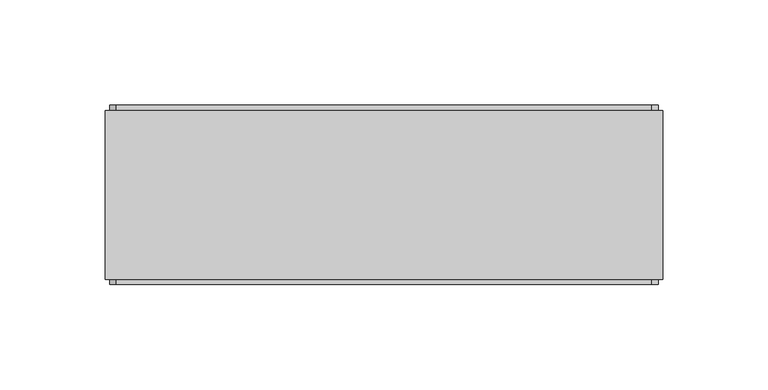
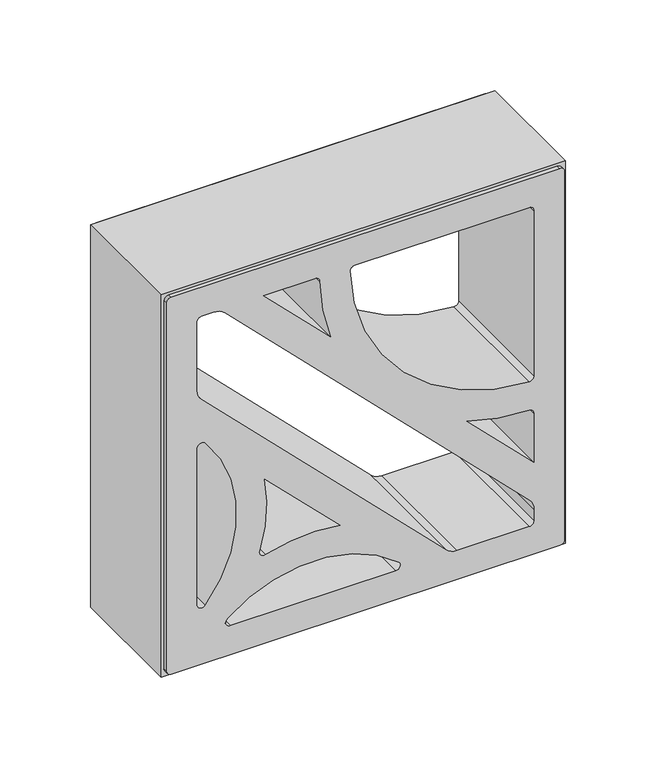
"""IFC4 building model written with IfcOpenShell, lengths in millimetres: proxy geometry, PORTOBELLO - STUDIO CRAFT 5 26X26 (COBOGO) : STUDIO CRAFT 5."""

from ifc_helpers import new_model, si_unit, point, frame, frame_2d, origin, place, context, project, spatial, polyline, circle_curve, trimmed, segment, composite_curve, outline, extrude, source, transform, mapped, element, save


def generic_models_fdc848f5(model_context):
    return source(origin(), model_context, "Body", "SweptSolid", [
        extrude(outline(composite_curve([segment(polyline([(259.0, -130.0), (5.0, -130.0)]), True, "CONTINUOUS"), segment(trimmed(circle_curve(frame_2d((5.0, -127.0)), 3.0), [point((5.0, -130.0))], [point((2.0, -127.0))], False, "CARTESIAN"), True, "CONTINUOUS"), segment(polyline([(2.0, -127.0), (2.0, 127.0)]), True, "CONTINUOUS"), segment(trimmed(circle_curve(frame_2d((5.0, 127.0)), 3.0), [point((2.0, 127.0))], [point((5.0, 130.0))], False, "CARTESIAN"), True, "CONTINUOUS"), segment(polyline([(5.0, 130.0), (259.0, 130.0)]), True, "CONTINUOUS"), segment(trimmed(circle_curve(frame_2d((259.0, 127.0)), 3.0), [point((259.0, 130.0))], [point((262.0, 127.0))], False, "CARTESIAN"), True, "CONTINUOUS"), segment(polyline([(262.0, 127.0), (262.0, -127.0)]), True, "CONTINUOUS"), segment(trimmed(circle_curve(frame_2d((259.0, -127.0)), 3.0), [point((262.0, -127.0))], [point((259.0, -130.0))], False, "CARTESIAN"), True, "CONTINUOUS")], self_intersect=False), holes=[composite_curve([segment(polyline([(239.0, 110.0), (125.0374254, 110.0)]), True, "CONTINUOUS"), segment(trimmed(circle_curve(frame_2d((125.0374254, 107.0)), 3.0), [point((125.0374254, 110.0))], [point((122.0384118, 106.9230776))], True, "CARTESIAN"), True, "CONTINUOUS"), segment(trimmed(circle_curve(frame_2d((242.0, 110.0)), 120.0010421), [point((122.0384118, 106.9230776))], [point((238.9230776, -9.9615882))], True, "CARTESIAN"), True, "CONTINUOUS"), segment(trimmed(circle_curve(frame_2d((239.0, -6.9625746)), 3.0), [point((238.9230776, -9.9615882))], [point((242.0, -6.9625746))], True, "CARTESIAN"), True, "CONTINUOUS"), segment(polyline([(242.0, -6.9625746), (242.0, 107.0)]), True, "CONTINUOUS"), segment(trimmed(circle_curve(frame_2d((239.0, 107.0)), 3.0), [point((242.0, 107.0))], [point((239.0, 110.0))], True, "CARTESIAN"), True, "CONTINUOUS")], self_intersect=False), composite_curve([segment(polyline([(191.7936914, -110.0), (239.0, -110.0)]), True, "CONTINUOUS"), segment(trimmed(circle_curve(frame_2d((239.0, -107.0)), 3.0), [point((239.0, -110.0))], [point((242.0, -107.0))], True, "CARTESIAN"), True, "CONTINUOUS"), segment(polyline([(242.0, -107.0), (242.0, -99.1421356)]), True, "CONTINUOUS"), segment(trimmed(circle_curve(frame_2d((232.0, -99.1421356)), 10.0), [point((242.0, -99.1421356))], [point((239.0710678, -92.0710678))], True, "CARTESIAN"), True, "CONTINUOUS"), segment(polyline([(239.0710678, -92.0710678), (39.9289322, 107.0710678)]), True, "CONTINUOUS"), segment(trimmed(circle_curve(frame_2d((32.8578644, 100.0)), 10.0), [point((39.9289322, 107.0710678))], [point((32.8578644, 110.0))], True, "CARTESIAN"), True, "CONTINUOUS"), segment(polyline([(32.8578644, 110.0), (25.0, 110.0)]), True, "CONTINUOUS"), segment(trimmed(circle_curve(frame_2d((25.0, 107.0)), 3.0), [point((25.0, 110.0))], [point((22.0, 107.0))], True, "CARTESIAN"), True, "CONTINUOUS"), segment(polyline([(22.0, 107.0), (22.0, 59.7936914)]), True, "CONTINUOUS"), segment(trimmed(circle_curve(frame_2d((32.0, 59.7936914)), 10.0), [point((22.0, 59.7936914))], [point((24.9289322, 52.7226236))], True, "CARTESIAN"), True, "CONTINUOUS"), segment(polyline([(24.9289322, 52.7226236), (184.7226236, -107.0710678)]), True, "CONTINUOUS"), segment(trimmed(circle_curve(frame_2d((191.7936914, -100.0)), 10.0), [point((184.7226236, -107.0710678))], [point((191.7936914, -110.0))], True, "CARTESIAN"), True, "CONTINUOUS")], self_intersect=False), composite_curve([segment(polyline([(22.0, 19.6607631), (22.0, -88.1513429)]), True, "CONTINUOUS"), segment(trimmed(circle_curve(frame_2d((25.0, -88.1513429)), 3.0), [point((22.0, -88.1513429))], [point((27.3003778, -90.0770276))], True, "CARTESIAN"), True, "CONTINUOUS"), segment(trimmed(circle_curve(frame_2d((-39.3949054, -34.2452899)), 86.9795593), [point((27.3003778, -90.0770276))], [point((27.3003778, 21.5864478))], True, "CARTESIAN"), True, "CONTINUOUS"), segment(trimmed(circle_curve(frame_2d((25.0, 19.6607631)), 3.0), [point((27.3003778, 21.5864478))], [point((22.0, 19.6607631))], True, "CARTESIAN"), True, "CONTINUOUS")], self_intersect=False), composite_curve([segment(polyline([(115.2175255, -65.8502409), (66.1497591, -16.7824745)]), True, "CONTINUOUS"), segment(trimmed(circle_curve(frame_2d((-39.3949054, -34.2452899)), 106.9795593), [point((66.1497591, -16.7824745))], [point((62.9864637, -65.272397))], False, "CARTESIAN"), True, "CONTINUOUS"), segment(trimmed(circle_curve(frame_2d((65.8575179, -66.1424821)), 3.0), [point((62.9864637, -65.272397))], [point((66.727603, -69.0135363))], True, "CARTESIAN"), True, "CONTINUOUS"), segment(trimmed(circle_curve(frame_2d((97.7547101, -171.3949054)), 106.9795593), [point((66.727603, -69.0135363))], [point((115.2175255, -65.8502409))], False, "CARTESIAN"), True, "CONTINUOUS")], self_intersect=False), composite_curve([segment(trimmed(circle_curve(frame_2d((97.7547101, -171.3949054)), 86.9795593), [point((153.5864478, -104.6996222))], [point((41.9229724, -104.6996222))], True, "CARTESIAN"), True, "CONTINUOUS"), segment(trimmed(circle_curve(frame_2d((43.8486571, -107.0)), 3.0), [point((41.9229724, -104.6996222))], [point((43.8486571, -110.0))], True, "CARTESIAN"), True, "CONTINUOUS"), segment(polyline([(43.8486571, -110.0), (151.6607631, -110.0)]), True, "CONTINUOUS"), segment(trimmed(circle_curve(frame_2d((151.6607631, -107.0)), 3.0), [point((151.6607631, -110.0))], [point((153.5864478, -104.6996222))], True, "CARTESIAN"), True, "CONTINUOUS")], self_intersect=False), composite_curve([segment(trimmed(circle_curve(frame_2d((242.0, 110.0)), 140.0010421), [point((108.9987296, 66.2855416))], [point((102.0297694, 107.0629366))], False, "CARTESIAN"), True, "CONTINUOUS"), segment(trimmed(circle_curve(frame_2d((99.0304297, 107.0)), 3.0), [point((102.0297694, 107.0629366))], [point((99.0304297, 110.0))], True, "CARTESIAN"), True, "CONTINUOUS"), segment(polyline([(99.0304297, 110.0), (65.2842712, 110.0), (108.9987296, 66.2855416)]), True, "CONTINUOUS")], self_intersect=False), composite_curve([segment(polyline([(242.0, -66.7157288), (242.0, -32.9695703)]), True, "CONTINUOUS"), segment(trimmed(circle_curve(frame_2d((239.0, -32.9695703)), 3.0), [point((242.0, -32.9695703))], [point((239.0629366, -29.9702306))], True, "CARTESIAN"), True, "CONTINUOUS"), segment(trimmed(circle_curve(frame_2d((242.0, 110.0)), 140.0010421), [point((239.0629366, -29.9702306))], [point((198.2855416, -23.0012704))], False, "CARTESIAN"), True, "CONTINUOUS"), segment(polyline([(198.2855416, -23.0012704), (242.0, -66.7157288)]), True, "CONTINUOUS")], self_intersect=False)]), frame((0.0, -42.5, 0.0), z_axis=(0.0, 1.0, 0.0), x_axis=(0.0, 0.0, 1.0)), (0.0, 0.0, 1.0), 85.0),
        extrude(outline(polyline([(264.0, -132.0), (0.0, -132.0), (0.0, 132.0), (264.0, 132.0), (264.0, -132.0)]), holes=[composite_curve([segment(trimmed(circle_curve(frame_2d((5.0, -127.0)), 3.0), [point((2.0, -127.0))], [point((5.0, -130.0))], True, "CARTESIAN"), True, "CONTINUOUS"), segment(polyline([(5.0, -130.0), (259.0, -130.0)]), True, "CONTINUOUS"), segment(trimmed(circle_curve(frame_2d((259.0, -127.0)), 3.0), [point((259.0, -130.0))], [point((262.0, -127.0))], True, "CARTESIAN"), True, "CONTINUOUS"), segment(polyline([(262.0, -127.0), (262.0, 127.0)]), True, "CONTINUOUS"), segment(trimmed(circle_curve(frame_2d((259.0, 127.0)), 3.0), [point((262.0, 127.0))], [point((259.0, 130.0))], True, "CARTESIAN"), True, "CONTINUOUS"), segment(polyline([(259.0, 130.0), (5.0, 130.0)]), True, "CONTINUOUS"), segment(trimmed(circle_curve(frame_2d((5.0, 127.0)), 3.0), [point((5.0, 130.0))], [point((2.0, 127.0))], True, "CARTESIAN"), True, "CONTINUOUS"), segment(polyline([(2.0, 127.0), (2.0, -127.0)]), True, "CONTINUOUS")], self_intersect=False)]), frame((0.0, -40.0, 0.0), z_axis=(0.0, 1.0, 0.0), x_axis=(0.0, 0.0, 1.0)), (0.0, 0.0, 1.0), 80.0),
    ])


if __name__ == "__main__":
    model = new_model("IFC4")
    model_context = context("Model", 3, world=origin())
    ifc_project = project(units=[si_unit("LENGTHUNIT", "METRE", prefix="MILLI")], contexts=[model_context])
    site = spatial("IfcSite", under=ifc_project)
    building = spatial("IfcBuilding", under=site)
    placement = place(None, origin())
    generic_models_shape = generic_models_fdc848f5(model_context)
    element("IfcBuildingElementProxy", 1, Name="PORTOBELLO - STUDIO CRAFT 5 26X26 (COBOGO) : STUDIO CRAFT 5", ObjectType="PORTOBELLO - STUDIO CRAFT 5 26X26 (COBOGO) : STUDIO CRAFT 5", at=placement, inside=building, context=model_context, shape_type="MappedRepresentation", body=[
        mapped(generic_models_shape, transform((0.0, 0.0, 0.0), x_axis=(1.0, 0.0, 0.0), y_axis=(0.0, 1.0, 0.0), z_axis=(0.0, 0.0, 1.0))),
    ])
    save(model, "model.ifc")
